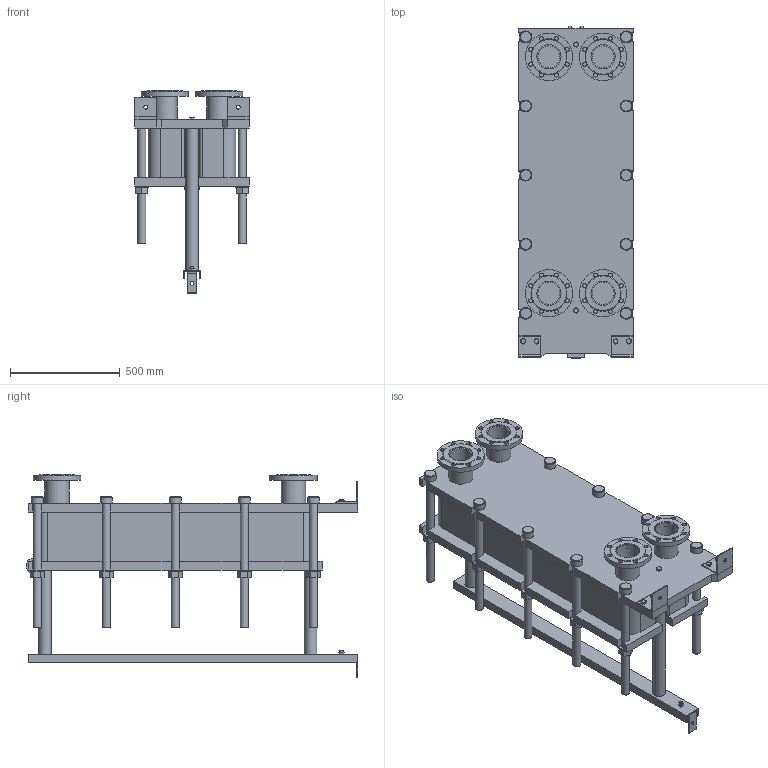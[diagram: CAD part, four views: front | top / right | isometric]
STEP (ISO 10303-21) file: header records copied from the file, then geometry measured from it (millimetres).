
FILE_DESCRIPTION(/* description */ (''),/* implementation_level */ '2;1');
FILE_NAME(/* name */ 'C:\Users\zhuro\Desktop\ENCO\TO\ЭН-04\ЭН-0,5-04-65-1.stp',/* time_stamp */ '2022-06-06T10:50:08+03:00',/* author */ ('zhuro'),/* organization */ (''),/* preprocessor_version */ 'ST-DEVELOPER v18.1',/* originating_system */ 'Autodesk Inventor 2022',/* authorisation */ '');
FILE_SCHEMA (('AUTOMOTIVE_DESIGN { 1 0 10303 214 3 1 1 }'));
Length unit declared in the file: millimetre
Products named in the file (1): ЭН-0,5-04-65-1
Bounding box: 520 x 1510 x 922.5 mm (x, y, z)
Volume: 181392041.3 mm3; surface area: 7585608.6 mm2
Topology: 45 solids, 45 shells, 668 faces, 1611 edges, 1048 vertices
Faces by surface type: plane 457, cylinder 166, cone 39, torus 6
Full cylindrical faces by diameter (mm): 8 x4, 10 x2, 16 x8, 18 x35, 36 x25, 40 x2, 42 x1, 45 x4, 54 x10, 57 x2, 60 x10, 68 x2, 100 x4, 110 x8, 215 x4
Entity records: 23607 total; most frequent: CARTESIAN_POINT 7348, DIRECTION 3371, ORIENTED_EDGE 3142, EDGE_CURVE 1571, AXIS2_PLACEMENT_3D 1199, VERTEX_POINT 1044, LINE 973, VECTOR 973
